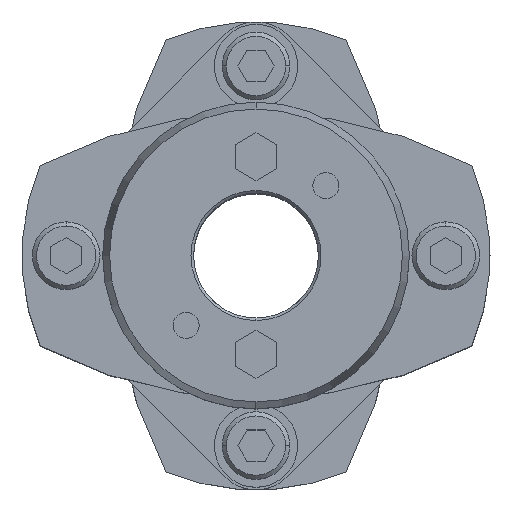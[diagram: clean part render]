
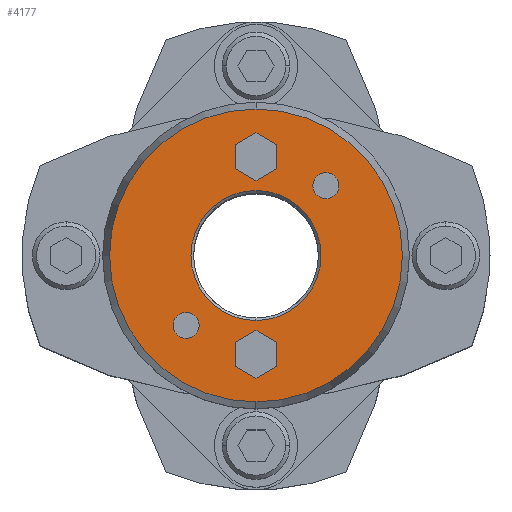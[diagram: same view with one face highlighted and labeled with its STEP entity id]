
A CAD part, top view. The second image highlights one B-rep face of the part: STEP entity #4177.
In plain terms, the highlighted planar face has unit normal (0, 0, 1).
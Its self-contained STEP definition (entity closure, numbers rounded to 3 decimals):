
#2291=CARTESIAN_POINT('',(0.,12.5,52.0));
#2292=VERTEX_POINT('',#2291);
#2308=CARTESIAN_POINT('',(0.,-12.5,52.0));
#2309=VERTEX_POINT('',#2308);
#2316=CARTESIAN_POINT('',(0.,0.,52.0));
#2317=DIRECTION('',(0.0,0.0,1.0));
#2318=DIRECTION('',(0.0,1.0,0.0));
#2319=AXIS2_PLACEMENT_3D('',#2316,#2317,#2318);
#2320=CIRCLE('',#2319,12.5);
#2321=EDGE_CURVE('',#2309,#2292,#2320,.T.);
#2479=CARTESIAN_POINT('',(0.,-28.16,52.0));
#2480=VERTEX_POINT('',#2479);
#2487=CARTESIAN_POINT('',(0.,28.16,52.0));
#2488=VERTEX_POINT('',#2487);
#2489=CARTESIAN_POINT('',(0.,0.,52.0));
#2490=DIRECTION('',(0.0,0.0,-1.0));
#2491=DIRECTION('',(0.0,-1.0,0.0));
#2492=AXIS2_PLACEMENT_3D('',#2489,#2490,#2491);
#2493=CIRCLE('',#2492,28.16);
#2494=EDGE_CURVE('',#2480,#2488,#2493,.T.);
#2737=CARTESIAN_POINT('',(-13.435,-10.935,52.0));
#2738=VERTEX_POINT('',#2737);
#2754=CARTESIAN_POINT('',(-13.435,-15.935,52.0));
#2755=VERTEX_POINT('',#2754);
#2762=CARTESIAN_POINT('',(-13.435,-13.435,52.0));
#2763=DIRECTION('',(0.0,0.0,-1.0));
#2764=DIRECTION('',(0.0,1.0,0.0));
#2765=AXIS2_PLACEMENT_3D('',#2762,#2763,#2764);
#2766=CIRCLE('',#2765,2.5);
#2767=EDGE_CURVE('',#2738,#2755,#2766,.T.);
#2779=CARTESIAN_POINT('',(13.435,15.935,52.0));
#2780=VERTEX_POINT('',#2779);
#2796=CARTESIAN_POINT('',(13.435,10.935,52.0));
#2797=VERTEX_POINT('',#2796);
#2804=CARTESIAN_POINT('',(13.435,13.435,52.0));
#2805=DIRECTION('',(0.0,0.0,-1.0));
#2806=DIRECTION('',(0.0,1.0,0.0));
#2807=AXIS2_PLACEMENT_3D('',#2804,#2805,#2806);
#2808=CIRCLE('',#2807,2.5);
#2809=EDGE_CURVE('',#2780,#2797,#2808,.T.);
#2892=CARTESIAN_POINT('',(13.435,13.435,52.0));
#2893=DIRECTION('',(0.0,0.0,-1.0));
#2894=DIRECTION('',(0.0,1.0,0.0));
#2895=AXIS2_PLACEMENT_3D('',#2892,#2893,#2894);
#2896=CIRCLE('',#2895,2.5);
#2897=EDGE_CURVE('',#2797,#2780,#2896,.T.);
#2926=CARTESIAN_POINT('',(-13.435,-13.435,52.0));
#2927=DIRECTION('',(0.0,0.0,-1.0));
#2928=DIRECTION('',(0.0,1.0,0.0));
#2929=AXIS2_PLACEMENT_3D('',#2926,#2927,#2928);
#2930=CIRCLE('',#2929,2.5);
#2931=EDGE_CURVE('',#2755,#2738,#2930,.T.);
#2969=CARTESIAN_POINT('',(0.,23.619,52.0));
#2970=VERTEX_POINT('',#2969);
#2977=CARTESIAN_POINT('',(-4.,21.309,52.0));
#2978=VERTEX_POINT('',#2977);
#2979=CARTESIAN_POINT('',(-4.,21.309,52.0));
#2980=DIRECTION('',(0.866,0.5,0.0));
#2981=VECTOR('',#2980,4.619);
#2982=LINE('',#2979,#2981);
#2983=EDGE_CURVE('',#2978,#2970,#2982,.T.);
#3007=CARTESIAN_POINT('',(4.,21.309,52.0));
#3008=VERTEX_POINT('',#3007);
#3015=CARTESIAN_POINT('',(0.,23.619,52.0));
#3016=DIRECTION('',(0.866,-0.5,0.0));
#3017=VECTOR('',#3016,4.619);
#3018=LINE('',#3015,#3017);
#3019=EDGE_CURVE('',#2970,#3008,#3018,.T.);
#3038=CARTESIAN_POINT('',(4.,16.691,52.0));
#3039=VERTEX_POINT('',#3038);
#3046=CARTESIAN_POINT('',(4.,21.309,52.0));
#3047=DIRECTION('',(0.0,-1.0,0.0));
#3048=VECTOR('',#3047,4.619);
#3049=LINE('',#3046,#3048);
#3050=EDGE_CURVE('',#3008,#3039,#3049,.T.);
#3069=CARTESIAN_POINT('',(0.,14.381,52.0));
#3070=VERTEX_POINT('',#3069);
#3077=CARTESIAN_POINT('',(4.,16.691,52.0));
#3078=DIRECTION('',(-0.866,-0.5,0.0));
#3079=VECTOR('',#3078,4.619);
#3080=LINE('',#3077,#3079);
#3081=EDGE_CURVE('',#3039,#3070,#3080,.T.);
#3100=CARTESIAN_POINT('',(-4.,16.691,52.0));
#3101=VERTEX_POINT('',#3100);
#3108=CARTESIAN_POINT('',(0.,14.381,52.0));
#3109=DIRECTION('',(-0.866,0.5,0.0));
#3110=VECTOR('',#3109,4.619);
#3111=LINE('',#3108,#3110);
#3112=EDGE_CURVE('',#3070,#3101,#3111,.T.);
#3130=CARTESIAN_POINT('',(-4.,16.691,52.0));
#3131=DIRECTION('',(0.0,1.0,0.0));
#3132=VECTOR('',#3131,4.619);
#3133=LINE('',#3130,#3132);
#3134=EDGE_CURVE('',#3101,#2978,#3133,.T.);
#3169=CARTESIAN_POINT('',(0.,-14.381,52.0));
#3170=VERTEX_POINT('',#3169);
#3177=CARTESIAN_POINT('',(-4.,-16.691,52.0));
#3178=VERTEX_POINT('',#3177);
#3179=CARTESIAN_POINT('',(-4.,-16.691,52.0));
#3180=DIRECTION('',(0.866,0.5,0.0));
#3181=VECTOR('',#3180,4.619);
#3182=LINE('',#3179,#3181);
#3183=EDGE_CURVE('',#3178,#3170,#3182,.T.);
#3207=CARTESIAN_POINT('',(4.,-16.691,52.0));
#3208=VERTEX_POINT('',#3207);
#3215=CARTESIAN_POINT('',(0.,-14.381,52.0));
#3216=DIRECTION('',(0.866,-0.5,0.0));
#3217=VECTOR('',#3216,4.619);
#3218=LINE('',#3215,#3217);
#3219=EDGE_CURVE('',#3170,#3208,#3218,.T.);
#3238=CARTESIAN_POINT('',(4.,-21.309,52.0));
#3239=VERTEX_POINT('',#3238);
#3246=CARTESIAN_POINT('',(4.,-16.691,52.0));
#3247=DIRECTION('',(0.0,-1.0,0.0));
#3248=VECTOR('',#3247,4.619);
#3249=LINE('',#3246,#3248);
#3250=EDGE_CURVE('',#3208,#3239,#3249,.T.);
#3269=CARTESIAN_POINT('',(0.,-23.619,52.0));
#3270=VERTEX_POINT('',#3269);
#3277=CARTESIAN_POINT('',(4.,-21.309,52.0));
#3278=DIRECTION('',(-0.866,-0.5,0.0));
#3279=VECTOR('',#3278,4.619);
#3280=LINE('',#3277,#3279);
#3281=EDGE_CURVE('',#3239,#3270,#3280,.T.);
#3300=CARTESIAN_POINT('',(-4.,-21.309,52.0));
#3301=VERTEX_POINT('',#3300);
#3308=CARTESIAN_POINT('',(0.,-23.619,52.0));
#3309=DIRECTION('',(-0.866,0.5,0.0));
#3310=VECTOR('',#3309,4.619);
#3311=LINE('',#3308,#3310);
#3312=EDGE_CURVE('',#3270,#3301,#3311,.T.);
#3330=CARTESIAN_POINT('',(-4.,-21.309,52.0));
#3331=DIRECTION('',(0.0,1.0,0.0));
#3332=VECTOR('',#3331,4.619);
#3333=LINE('',#3330,#3332);
#3334=EDGE_CURVE('',#3301,#3178,#3333,.T.);
#4124=CARTESIAN_POINT('',(0.,0.,52.0));
#4125=DIRECTION('',(0.0,0.0,-1.0));
#4126=DIRECTION('',(0.0,-1.0,0.0));
#4127=AXIS2_PLACEMENT_3D('',#4124,#4125,#4126);
#4128=CIRCLE('',#4127,28.16);
#4129=EDGE_CURVE('',#2488,#2480,#4128,.T.);
#4134=CARTESIAN_POINT('',(0.,2.682,52.0));
#4135=DIRECTION('',(0.0,0.0,1.0));
#4136=DIRECTION('',(0.0,1.0,0.0));
#4137=AXIS2_PLACEMENT_3D('',#4134,#4135,#4136);
#4138=PLANE('',#4137);
#4139=ORIENTED_EDGE('',*,*,#4129,.F.);
#4140=ORIENTED_EDGE('',*,*,#2494,.F.);
#4141=EDGE_LOOP('',(#4139,#4140));
#4142=FACE_OUTER_BOUND('',#4141,.T.);
#4143=ORIENTED_EDGE('',*,*,#2809,.T.);
#4144=ORIENTED_EDGE('',*,*,#2897,.T.);
#4145=EDGE_LOOP('',(#4143,#4144));
#4146=FACE_BOUND('',#4145,.T.);
#4147=ORIENTED_EDGE('',*,*,#2767,.T.);
#4148=ORIENTED_EDGE('',*,*,#2931,.T.);
#4149=EDGE_LOOP('',(#4147,#4148));
#4150=FACE_BOUND('',#4149,.T.);
#4151=ORIENTED_EDGE('',*,*,#2983,.T.);
#4152=ORIENTED_EDGE('',*,*,#3019,.T.);
#4153=ORIENTED_EDGE('',*,*,#3050,.T.);
#4154=ORIENTED_EDGE('',*,*,#3081,.T.);
#4155=ORIENTED_EDGE('',*,*,#3112,.T.);
#4156=ORIENTED_EDGE('',*,*,#3134,.T.);
#4157=EDGE_LOOP('',(#4151,#4152,#4153,#4154,#4155,#4156));
#4158=FACE_BOUND('',#4157,.T.);
#4159=ORIENTED_EDGE('',*,*,#3183,.T.);
#4160=ORIENTED_EDGE('',*,*,#3219,.T.);
#4161=ORIENTED_EDGE('',*,*,#3250,.T.);
#4162=ORIENTED_EDGE('',*,*,#3281,.T.);
#4163=ORIENTED_EDGE('',*,*,#3312,.T.);
#4164=ORIENTED_EDGE('',*,*,#3334,.T.);
#4165=EDGE_LOOP('',(#4159,#4160,#4161,#4162,#4163,#4164));
#4166=FACE_BOUND('',#4165,.T.);
#4167=ORIENTED_EDGE('',*,*,#2321,.F.);
#4168=CARTESIAN_POINT('',(0.,0.,52.0));
#4169=DIRECTION('',(0.0,0.0,1.0));
#4170=DIRECTION('',(0.0,1.0,0.0));
#4171=AXIS2_PLACEMENT_3D('',#4168,#4169,#4170);
#4172=CIRCLE('',#4171,12.5);
#4173=EDGE_CURVE('',#2292,#2309,#4172,.T.);
#4174=ORIENTED_EDGE('',*,*,#4173,.F.);
#4175=EDGE_LOOP('',(#4167,#4174));
#4176=FACE_BOUND('',#4175,.T.);
#4177=ADVANCED_FACE('',(#4142,#4146,#4150,#4158,#4166,#4176),#4138,.T.);
